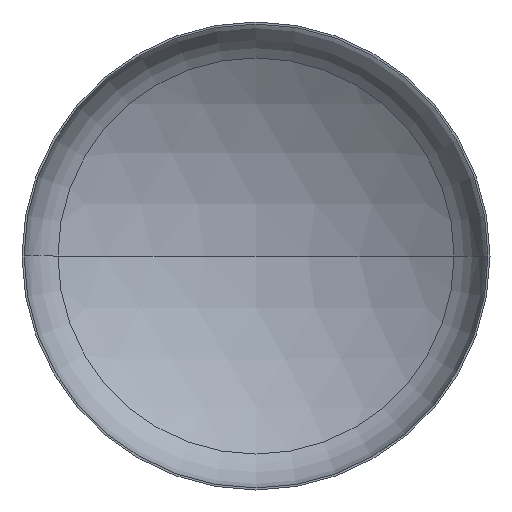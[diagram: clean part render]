
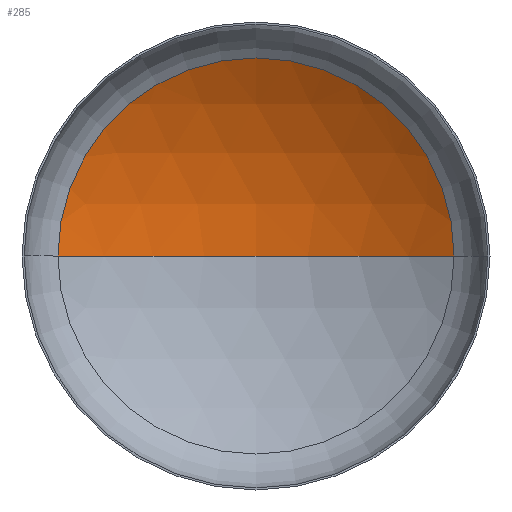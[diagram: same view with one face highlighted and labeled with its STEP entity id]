
A CAD part, front view. The second image highlights one B-rep face of the part: STEP entity #285.
In plain terms, the highlighted spherical face has radius 6400 mm.
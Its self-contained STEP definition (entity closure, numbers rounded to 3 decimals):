
#13 = DIRECTION ( 'NONE',  ( 0., 0., 1. ) ) ;
#20 = ORIENTED_EDGE ( 'NONE', *, *, #154, .T. ) ;
#21 = DIRECTION ( 'NONE',  ( -1., 0., 0. ) ) ;
#26 = DIRECTION ( 'NONE',  ( 0., 0., -1. ) ) ;
#29 = DIRECTION ( 'NONE',  ( 1., 0., 0. ) ) ;
#33 = ORIENTED_EDGE ( 'NONE', *, *, #156, .T. ) ;
#39 = AXIS2_PLACEMENT_3D ( 'NONE', #192, #217, #219 ) ;
#61 = VERTEX_POINT ( 'NONE', #180 ) ;
#65 = AXIS2_PLACEMENT_3D ( 'NONE', #138, #13, #121 ) ;
#69 = ORIENTED_EDGE ( 'NONE', *, *, #159, .F. ) ;
#72 = AXIS2_PLACEMENT_3D ( 'NONE', #145, #26, #21 ) ;
#75 = AXIS2_PLACEMENT_3D ( 'NONE', #117, #86, #29 ) ;
#86 = DIRECTION ( 'NONE',  ( 0., -1., 0. ) ) ;
#97 = VERTEX_POINT ( 'NONE', #324 ) ;
#117 = CARTESIAN_POINT ( 'NONE',  ( 0., 1153.794, 0. ) ) ;
#118 = EDGE_LOOP ( 'NONE', ( #69, #33, #20 ) ) ;
#121 = DIRECTION ( 'NONE',  ( 1., 0., 0. ) ) ;
#138 = CARTESIAN_POINT ( 'NONE',  ( 0., -4277.331, 0. ) ) ;
#140 = VERTEX_POINT ( 'NONE', #332 ) ;
#145 = CARTESIAN_POINT ( 'NONE',  ( 0., -4277.331, 0. ) ) ;
#154 = EDGE_CURVE ( 'NONE', #61, #140, #406, .T. ) ;
#156 = EDGE_CURVE ( 'NONE', #97, #61, #297, .T. ) ;
#159 = EDGE_CURVE ( 'NONE', #97, #140, #352, .T. ) ;
#180 = CARTESIAN_POINT ( 'NONE',  ( 3385.687, 1153.794, 0. ) ) ;
#192 = CARTESIAN_POINT ( 'NONE',  ( 0., -4277.331, 0. ) ) ;
#217 = DIRECTION ( 'NONE',  ( 0., 0., -1. ) ) ;
#219 = DIRECTION ( 'NONE',  ( -1., 0., 0. ) ) ;
#220 = FACE_OUTER_BOUND ( 'NONE', #118, .T. ) ;
#276 = SPHERICAL_SURFACE ( 'NONE', #39, 6400. ) ;
#285 = ADVANCED_FACE ( 'NONE', ( #220 ), #276, .F. ) ;
#297 = CIRCLE ( 'NONE', #72, 6400. ) ;
#324 = CARTESIAN_POINT ( 'NONE',  ( 0., 2122.669, 0. ) ) ;
#332 = CARTESIAN_POINT ( 'NONE',  ( -3385.687, 1153.794, 0. ) ) ;
#352 = CIRCLE ( 'NONE', #65, 6400. ) ;
#406 = CIRCLE ( 'NONE', #75, 3385.687 ) ;
